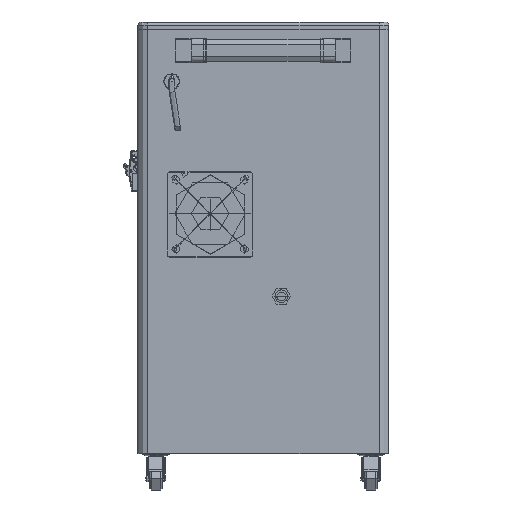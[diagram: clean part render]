
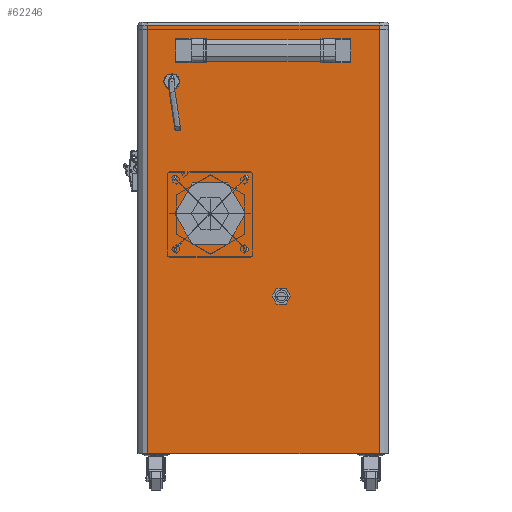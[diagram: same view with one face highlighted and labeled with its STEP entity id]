
A CAD part, left-side view. The second image highlights one B-rep face of the part: STEP entity #62246.
In plain terms, the highlighted planar face has unit normal (-1, 0, 0).
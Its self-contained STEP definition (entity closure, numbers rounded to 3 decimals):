
#38603=B_SPLINE_CURVE_WITH_KNOTS('',1,(#697065,#697066),.UNSPECIFIED.,.F.,
 .F.,(2,2),(1405.,1765.),.UNSPECIFIED.);
#38605=B_SPLINE_CURVE_WITH_KNOTS('',1,(#697093,#697094),.UNSPECIFIED.,.F.,
 .F.,(2,2),(5.,670.),.UNSPECIFIED.);
#38606=B_SPLINE_CURVE_WITH_KNOTS('',1,(#697095,#697096),.UNSPECIFIED.,.F.,
 .F.,(2,2),(0.,665.),.UNSPECIFIED.);
#38608=B_SPLINE_CURVE_WITH_KNOTS('',1,(#697105,#697106),.UNSPECIFIED.,.F.,
 .F.,(2,2),(0.,360.),.UNSPECIFIED.);
#46737=FACE_BOUND('',#97776,.T.);
#62246=ADVANCED_FACE('',(#79786,#46737),#237971,.T.);
#79786=FACE_OUTER_BOUND('',#97775,.T.);
#97775=EDGE_LOOP('',(#157787,#157788,#157789,#157790));
#97776=EDGE_LOOP('',(#157791,#157792));
#157787=ORIENTED_EDGE('',*,*,#197267,.T.);
#157788=ORIENTED_EDGE('',*,*,#197263,.T.);
#157789=ORIENTED_EDGE('',*,*,#197268,.T.);
#157790=ORIENTED_EDGE('',*,*,#197272,.F.);
#157791=ORIENTED_EDGE('',*,*,#197327,.T.);
#157792=ORIENTED_EDGE('',*,*,#197367,.T.);
#197263=EDGE_CURVE('',#232627,#232626,#38603,.T.);
#197267=EDGE_CURVE('',#232690,#232627,#38605,.T.);
#197268=EDGE_CURVE('',#232626,#232691,#38606,.T.);
#197272=EDGE_CURVE('',#232690,#232691,#38608,.T.);
#197327=EDGE_CURVE('',#232661,#232696,#207637,.T.);
#197367=EDGE_CURVE('',#232696,#232661,#207659,.T.);
#207637=TRIMMED_CURVE($,#212023,(#697263),(#697264),.T.,.CARTESIAN.);
#207659=TRIMMED_CURVE($,#212045,(#697407),(#697408),.T.,.CARTESIAN.);
#212023=CIRCLE('',#246870,55.);
#212045=CIRCLE('',#246892,55.);
#232626=VERTEX_POINT('',#696921);
#232627=VERTEX_POINT('',#696922);
#232661=VERTEX_POINT('',#696956);
#232690=VERTEX_POINT('',#696985);
#232691=VERTEX_POINT('',#696986);
#232696=VERTEX_POINT('',#696991);
#237971=PLANE('',#246825);
#246825=AXIS2_PLACEMENT_3D('',#696750,#258706,$);
#246870=AXIS2_PLACEMENT_3D($,#697262,#258762,#258763);
#246892=AXIS2_PLACEMENT_3D($,#697406,#258806,#258807);
#258706=DIRECTION('',(-1.,0.,0.));
#258762=DIRECTION('',(1.,0.,0.));
#258763=DIRECTION('',(0.,-1.,0.));
#258806=DIRECTION('',(1.,0.,0.));
#258807=DIRECTION('',(0.,1.,0.));
#696750=CARTESIAN_POINT('',(-250.,195.,0.));
#696921=CARTESIAN_POINT('',(-250.,-180.,0.));
#696922=CARTESIAN_POINT('',(-250.,180.,0.));
#696956=CARTESIAN_POINT('',(-250.,27.747,372.192));
#696985=CARTESIAN_POINT('',(-250.,180.,665.));
#696986=CARTESIAN_POINT('',(-250.,-180.,665.));
#696991=CARTESIAN_POINT('',(-250.,137.747,372.192));
#697065=CARTESIAN_POINT('',(-250.,180.,0.));
#697066=CARTESIAN_POINT('',(-250.,-180.,0.));
#697093=CARTESIAN_POINT('',(-250.,180.,665.));
#697094=CARTESIAN_POINT('',(-250.,180.,0.));
#697095=CARTESIAN_POINT('',(-250.,-180.,0.));
#697096=CARTESIAN_POINT('',(-250.,-180.,665.));
#697105=CARTESIAN_POINT('',(-250.,180.,665.));
#697106=CARTESIAN_POINT('',(-250.,-180.,665.));
#697262=CARTESIAN_POINT('',(-250.,82.747,372.192));
#697263=CARTESIAN_POINT('',(-250.,27.747,372.192));
#697264=CARTESIAN_POINT('',(-250.,137.747,372.192));
#697406=CARTESIAN_POINT('',(-250.,82.747,372.192));
#697407=CARTESIAN_POINT('',(-250.,137.747,372.192));
#697408=CARTESIAN_POINT('',(-250.,27.747,372.192));
